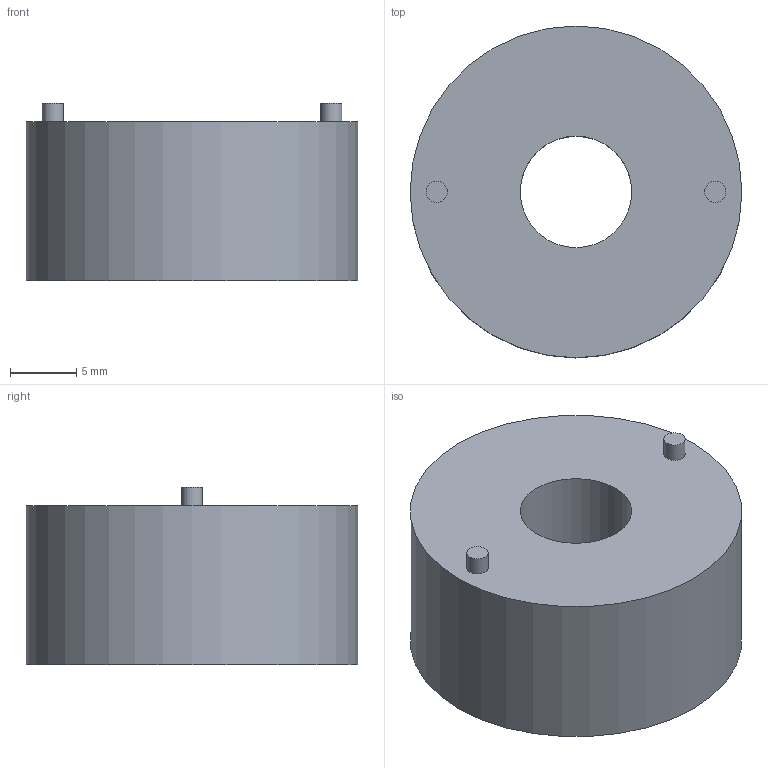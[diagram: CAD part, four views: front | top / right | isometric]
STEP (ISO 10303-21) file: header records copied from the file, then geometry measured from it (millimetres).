
FILE_DESCRIPTION(('Open CASCADE Model'),'2;1');
FILE_NAME('Open CASCADE Shape Model','2026-09-24T18:10:33',('Author'),( 'Open CASCADE'),'Open CASCADE STEP processor 7.8','Open CASCADE 7.8' ,'Unknown');
FILE_SCHEMA(('AUTOMOTIVE_DESIGN { 1 0 10303 214 1 1 1 1 }'));
Length unit declared in the file: millimetre
Products named in the file (1): Open CASCADE STEP translator 7.8 1
Bounding box: 25 x 25 x 13.4 mm (x, y, z)
Volume: 5231.1 mm3; surface area: 2144.1 mm2
Topology: 1 solids, 1 shells, 8 faces, 12 edges, 8 vertices
Faces by surface type: cylinder 4, plane 4
Full cylindrical faces by diameter (mm): 1.6 x2, 8.4 x1, 25 x1
Entity records: 354 total; most frequent: DIRECTION 62, CARTESIAN_POINT 53, ORIENTED_EDGE 24, PCURVE 24, DEFINITIONAL_REPRESENTATION 24, LINE 20, VECTOR 20, AXIS2_PLACEMENT_3D 17
